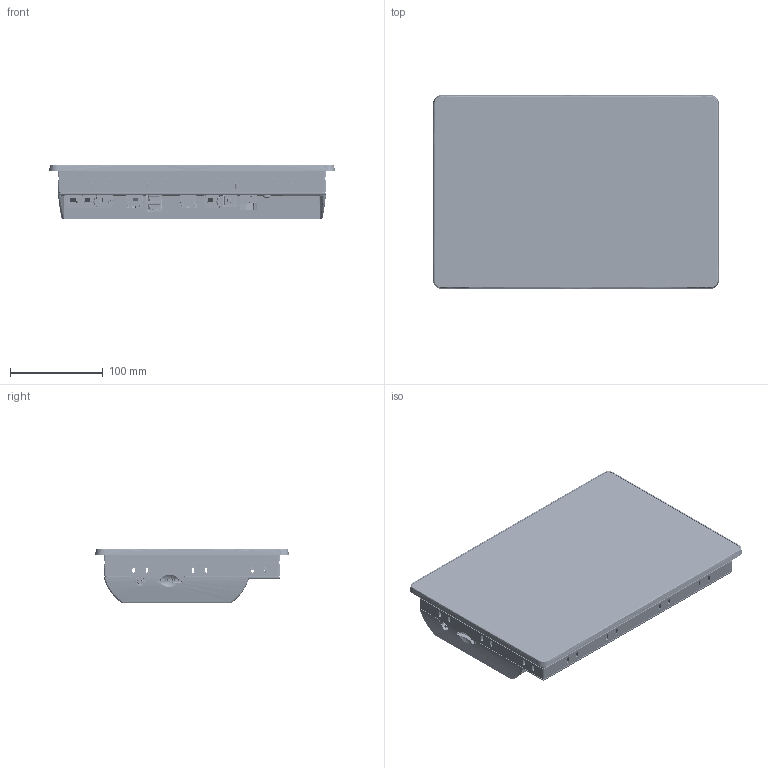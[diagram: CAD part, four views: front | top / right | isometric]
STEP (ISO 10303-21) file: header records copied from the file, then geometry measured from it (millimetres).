
FILE_DESCRIPTION (( 'STEP AP203' ), '1' );
FILE_NAME ('G12C0000_ASSEMBLY_12 INCH HMI-130905.STEP', '2013-09-06T10:31:21', ( 'Network Administration' ), ( 'Red Lion Controls Inc.' ), 'SwSTEP 2.0', 'SolidWorks 2013', '' );
FILE_SCHEMA (( 'CONFIG_CONTROL_DESIGN' ));
Length unit declared in the file: millimetre
Products named in the file (101): McMC 92949A108; SLOT5-1; SBD17720_FRONT BEZEL-G512C(Default); ETHERNET-1; HOST-1; DISPLAY - NEC NL12880BC20-05; CNMJ8803_2-1; CNHFR081_5-1; mec1-105-02-x-d-np-lc_8-1; BI_SWT7-J3G-1; BACKLIGHT-1; CNHFR040-1; BAL3R006_BATTERY; SLOT4-1; CV500700_REAR COVER, 12 INCH HMI; Extruded_2-1; Open CASCADE STEP translator 6.2 1.33.1.1-1; HWM05066_M2 SIDE BRACKET; CNMJ8803_3-1; CNHFR081_6-1; mec1-105-02-x-d-np-lc_9-1; PUSH_BUTTON-1; mec1-105-02-x-d-np-lc-1; DEVICE-1; GK522500_THERMAL PAD, PMIC; SLOT3-1; GK005012_GASKET, PANEL, 12 INCH HMI; 409661616-1; 522070460-1; McMC 91420A011; CNMJ8803_4-1; CNHFR081_7-1; mec1-105-02-x-d-np-lc_10-1; CUI-SJ-43515TS-1; mec1-105-02-x-d-np-lc_2-1; RS485-1; 90126A509; SLOT2-1; HWM05062_MODULE SOCKET PLUG; BEEPER-1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
Assembly tree (245 placements, depth 5):
  G12C0000_ASSEMBLY_12 INCH HMI-130905
    SBD17720_FRONT BEZEL-G512C(Default)
      NEC NL12880BC20-05 WITH HARDWARE
        DISPLAY - NEC NL12880BC20-05
        HWM05066_M2 SIDE BRACKET  x4
        McMC 91420A011  x4
        12 INCH PORON GASKET-HOZ(SINGLE STRIP)  x2
        12 INCH PORON GASKET-VERT(SINGLE STRIP)  x2
        McMC 90380A106  x4
      BZ500200_FRONT BEZEL, 12 INCH HMI
      SWM00017_TOUCH SCREEN ASSEMBLY, 12 INCH HMI(ASSEMBLY CONFIG)
      McMC 90402A106  x2
      HWM05064_LIGHT PIPE 9-10-12  x3
      Touchscreen_Cable_Installed(10-INCH INSTALLED)
    McMC 90402A106  x10
    CV500700_REAR COVER, 12 INCH HMI
    GK005012_GASKET, PANEL, 12 INCH HMI
    HWM05062_MODULE SOCKET PLUG  x8
    HWM05015_BATTERY ACCESS PLUG
    GK005014_THERMAL PAD, PROCESSOR
    GK005139_12-15 Tacoma Module Insulator Strip(12 & 15 Inch Insulation)
    McMC 92146A005  x8
    McMC 92949A108  x8
    BAL3R006_BATTERY
    GK522500_THERMAL PAD, PMIC
    90126A509
    90272A143
    G12_pcb
      RS485-2-1
        CNMJ8804-1
      BACKLIGHT-1
        5015681207-1
          Open CASCADE STEP translator 6.2 1.3.1.1-1
      SLOT8-1
        mec1-105-02-x-d-np-lc-1
        mec1-105-02-x-d-np-lc_2-1
        mec1-105-02-x-d-np-lc_3-1
        mec1-105-02-x-d-np-lc_4-1
        mec1-105-02-x-d-np-lc_5-1
        mec1-105-02-x-d-np-lc_6-1
        mec1-105-02-x-d-np-lc_7-1
        mec1-105-02-x-d-np-lc_8-1
        mec1-105-02-x-d-np-lc_9-1
        mec1-105-02-x-d-np-lc_10-1
        mec1-105-02-x-d-np-lc_11-1
        mec1-105-02-x-d-np-lc_12-1
        mec1-105-02-x-d-np-lc_13-1
      ETHERNET2-1
        CNMJ8803-1
        CNMJ8803_2-1
        CNMJ8803_3-1
        CNMJ8803_4-1
        CNMJ8803_5-1
        CNMJ8803_6-1
      SLOT6-1
        mec1-105-02-x-d-np-lc-1
        mec1-105-02-x-d-np-lc_2-1
        mec1-105-02-x-d-np-lc_3-1
        mec1-105-02-x-d-np-lc_4-1
        mec1-105-02-x-d-np-lc_5-1
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Bounding box: 307.26 x 208.26 x 58.75 mm (x, y, z)
Volume: 1124583.1 mm3; surface area: 1083561.6 mm2
Topology: 240 solids, 241 shells, 33530 faces, 88379 edges, 54667 vertices
Faces by surface type: plane 17227, cylinder 8825, bspline 4539, cone 1605, sphere 742, torus 592
Entity records: 683356 total; most frequent: CARTESIAN_POINT 218591, ORIENTED_EDGE 101542, DIRECTION 84739, EDGE_CURVE 50773, VERTEX_POINT 31525, LINE 31213, VECTOR 31213, AXIS2_PLACEMENT_3D 26763
